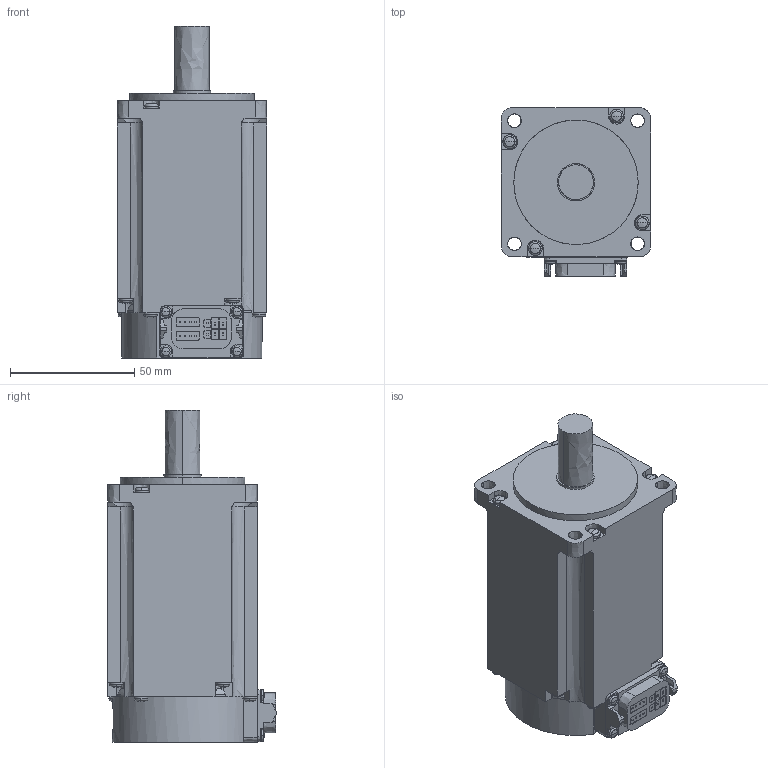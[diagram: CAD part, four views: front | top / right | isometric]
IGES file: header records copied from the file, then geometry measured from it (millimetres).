
Start section:  PTC IGES file: hk-kt63w_-_asm.igs
Global section: file name: hk-kt63w_-_asm.igs; native system: Creo Parametric by PTC Inc.; preprocessor: 2016380; author: XE90682; organization: Unknown; date: 20190115.174342; units: millimetre
Bounding box: 60 x 67.65 x 133.5 mm (x, y, z)
Volume: 336137.1 mm3; surface area: 33687.2 mm2
Topology: 1 solids, 1 shells, 401 faces, 1042 edges, 654 vertices
Faces by surface type: bspline 401
